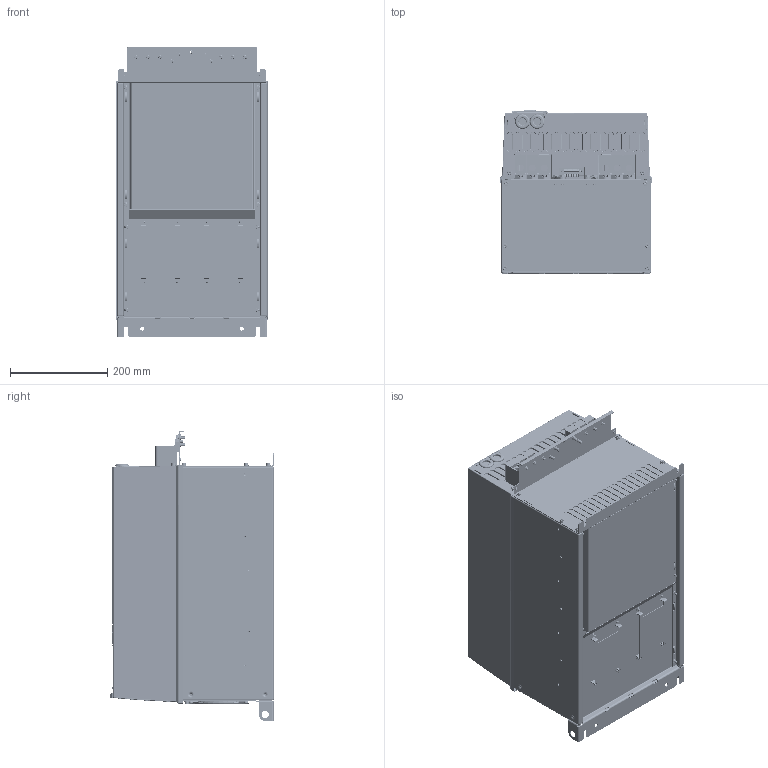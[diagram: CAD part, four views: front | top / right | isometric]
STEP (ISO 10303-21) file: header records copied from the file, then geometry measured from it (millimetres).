
FILE_DESCRIPTION((''),'2;1');
FILE_NAME('DANFOSS-FC101-H7-IP20','2011-09-09T',('cstephenkumar'),('Be-Atch INC. 1993'),'PRO/ENGINEER BY PARAMETRIC TECHNOLOGY CORPORATION, 2009360','PRO/ENGINEER BY PARAMETRIC TECHNOLOGY CORPORATION, 2009360','');
FILE_SCHEMA(('AUTOMOTIVE_DESIGN { 1 0 10303 214 1 1 1 1 }'));
Products named in the file (1): DANFOSS-FC101-H7-IP20
Bounding box: 313 x 335.09 x 594.75 mm (x, y, z)
Volume: 47732652.1 mm3; surface area: 1196620.2 mm2
Topology: 1 solids, 42 shells, 6772 faces, 17779 edges, 11369 vertices
Faces by surface type: plane 3690, cylinder 1681, extrusion 405, cone 336, torus 318, bspline 259, sphere 83
Entity records: 244519 total; most frequent: CARTESIAN_POINT 69666, ORIENTED_EDGE 35430, DIRECTION 31471, EDGE_CURVE 17715, VECTOR 11843, LINE 11438, VERTEX_POINT 11367, AXIS2_PLACEMENT_3D 9814
